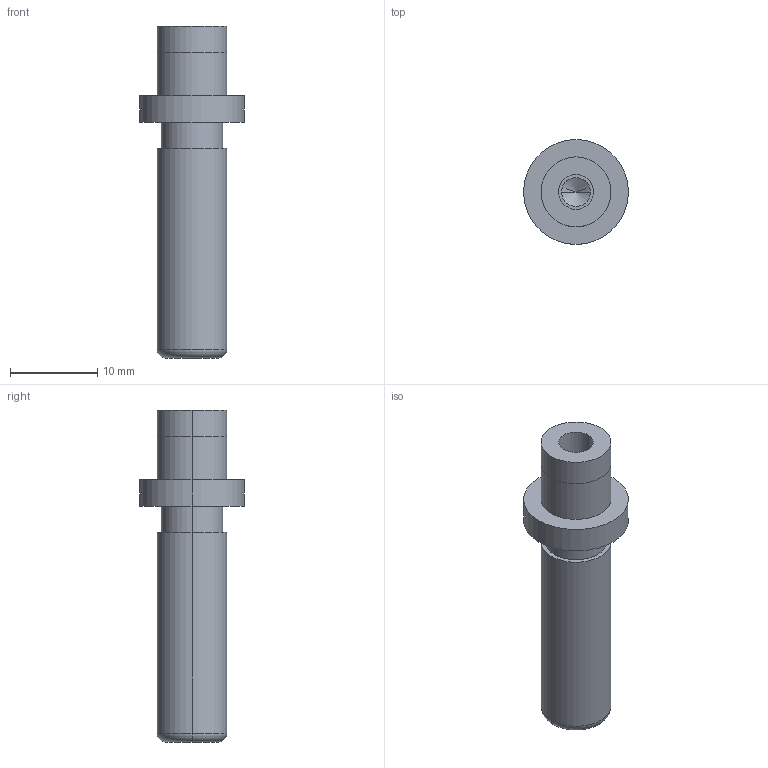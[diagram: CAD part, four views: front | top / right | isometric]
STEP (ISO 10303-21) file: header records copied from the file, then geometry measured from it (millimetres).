
FILE_DESCRIPTION(/* description */ (''),/* implementation_level */ '2;1');
FILE_NAME(/* name */ '3d_sgpw8-30_05238_r00.stp',/* time_stamp */ '2011-01-10T14:11:02+09:00',/* author */ ('MISUMI'),/* organization */ (''),/* preprocessor_version */ 'ST-DEVELOPER v11',/* originating_system */ 'UGS - NX 5.0',/* authorisation */ '');
FILE_SCHEMA (('CONFIG_CONTROL_DESIGN'));
Length unit declared in the file: millimetre
Products named in the file (1): 3d_sgpw8-30_05238_r00
Bounding box: 12 x 12 x 38 mm (x, y, z)
Volume: 1767.2 mm3; surface area: 1517.3 mm2
Topology: 1 solids, 1 shells, 31 faces, 64 edges, 38 vertices
Faces by surface type: cylinder 18, plane 7, cone 4, torus 2
Entity records: 890 total; most frequent: DIRECTION 162, CARTESIAN_POINT 130, ORIENTED_EDGE 120, AXIS2_PLACEMENT_3D 70, EDGE_CURVE 60, EDGE_LOOP 38, CIRCLE 38, VERTEX_POINT 38
